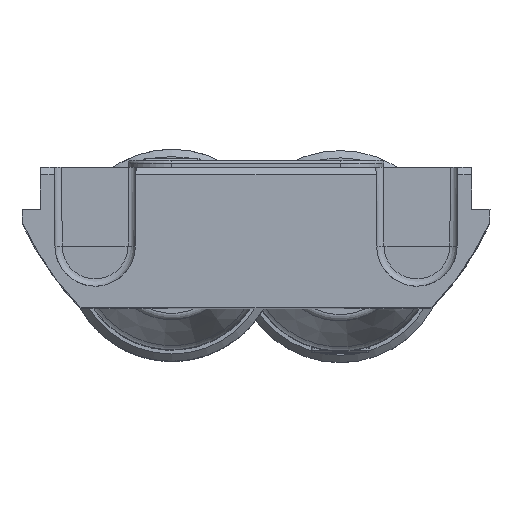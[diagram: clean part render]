
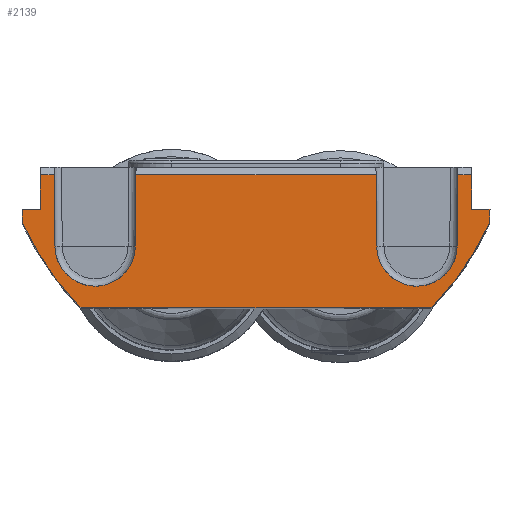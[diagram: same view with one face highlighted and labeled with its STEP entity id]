
A CAD part, top view. The second image highlights one B-rep face of the part: STEP entity #2139.
In plain terms, the highlighted planar face has unit normal (0, 0.009, 1).
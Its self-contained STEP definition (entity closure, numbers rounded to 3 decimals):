
#110=ELLIPSE('',#8088,0.5,0.5);
#112=ELLIPSE('',#8092,0.5,0.5);
#114=ELLIPSE('',#8096,0.5,0.5);
#117=ELLIPSE('',#8100,0.5,0.5);
#122=ELLIPSE('',#8119,2.75,2.75);
#123=ELLIPSE('',#8122,2.75,2.75);
#126=ELLIPSE('',#8136,20.001,20.);
#129=ELLIPSE('',#8140,20.001,20.);
#396=LINE('',#17270,#719);
#400=LINE('',#17279,#723);
#404=LINE('',#17288,#727);
#440=LINE('',#17905,#763);
#442=LINE('',#17909,#765);
#447=LINE('',#17919,#770);
#451=LINE('',#17927,#774);
#457=LINE('',#17938,#780);
#460=LINE('',#17947,#783);
#462=LINE('',#17957,#785);
#465=LINE('',#17974,#788);
#477=LINE('',#18008,#800);
#478=LINE('',#18010,#801);
#479=LINE('',#18011,#802);
#719=VECTOR('',#9833,1.);
#723=VECTOR('',#9839,1.);
#727=VECTOR('',#9845,1.);
#763=VECTOR('',#9981,1.);
#765=VECTOR('',#9985,1.);
#770=VECTOR('',#9992,1.);
#774=VECTOR('',#9998,1.);
#780=VECTOR('',#10008,1.);
#783=VECTOR('',#10013,1.);
#785=VECTOR('',#10021,1.);
#788=VECTOR('',#10032,1.);
#800=VECTOR('',#10078,1.);
#801=VECTOR('',#10081,1.);
#802=VECTOR('',#10082,1.);
#1172=FACE_OUTER_BOUND('',#3035,.T.);
#1571=PLANE('',#8143);
#2139=ADVANCED_FACE('',(#1172),#1571,.T.);
#3035=EDGE_LOOP('',(#4861,#4862,#4863,#4864,#4865,#4866,#4867,#4868,#4869,
#4870,#4871,#4872,#4873,#4874,#4875,#4876,#4877,#4878,#4879,#4880,#4881,
#4882));
#4861=ORIENTED_EDGE('',*,*,#6788,.T.);
#4862=ORIENTED_EDGE('',*,*,#6671,.T.);
#4863=ORIENTED_EDGE('',*,*,#6765,.F.);
#4864=ORIENTED_EDGE('',*,*,#6815,.F.);
#4865=ORIENTED_EDGE('',*,*,#6763,.F.);
#4866=ORIENTED_EDGE('',*,*,#6730,.T.);
#4867=ORIENTED_EDGE('',*,*,#6810,.T.);
#4868=ORIENTED_EDGE('',*,*,#6720,.T.);
#4869=ORIENTED_EDGE('',*,*,#6814,.F.);
#4870=ORIENTED_EDGE('',*,*,#6714,.T.);
#4871=ORIENTED_EDGE('',*,*,#6813,.T.);
#4872=ORIENTED_EDGE('',*,*,#6724,.T.);
#4873=ORIENTED_EDGE('',*,*,#6770,.F.);
#4874=ORIENTED_EDGE('',*,*,#6816,.F.);
#4875=ORIENTED_EDGE('',*,*,#6774,.F.);
#4876=ORIENTED_EDGE('',*,*,#6663,.T.);
#4877=ORIENTED_EDGE('',*,*,#6780,.F.);
#4878=ORIENTED_EDGE('',*,*,#6786,.F.);
#4879=ORIENTED_EDGE('',*,*,#6784,.F.);
#4880=ORIENTED_EDGE('',*,*,#6667,.T.);
#4881=ORIENTED_EDGE('',*,*,#6794,.T.);
#4882=ORIENTED_EDGE('',*,*,#6791,.T.);
#5723=VERTEX_POINT('',#17265);
#5725=VERTEX_POINT('',#17269);
#5727=VERTEX_POINT('',#17274);
#5729=VERTEX_POINT('',#17278);
#5731=VERTEX_POINT('',#17283);
#5733=VERTEX_POINT('',#17287);
#5762=VERTEX_POINT('',#17634);
#5763=VERTEX_POINT('',#17636);
#5766=VERTEX_POINT('',#17646);
#5767=VERTEX_POINT('',#17648);
#5770=VERTEX_POINT('',#17658);
#5771=VERTEX_POINT('',#17659);
#5776=VERTEX_POINT('',#17670);
#5777=VERTEX_POINT('',#17672);
#5803=VERTEX_POINT('',#17906);
#5804=VERTEX_POINT('',#17910);
#5808=VERTEX_POINT('',#17920);
#5811=VERTEX_POINT('',#17928);
#5814=VERTEX_POINT('',#17939);
#5815=VERTEX_POINT('',#17948);
#5816=VERTEX_POINT('',#17958);
#5817=VERTEX_POINT('',#17968);
#6663=EDGE_CURVE('',#5723,#5725,#396,.T.);
#6667=EDGE_CURVE('',#5727,#5729,#400,.T.);
#6671=EDGE_CURVE('',#5731,#5733,#404,.T.);
#6714=EDGE_CURVE('',#5762,#5763,#110,.T.);
#6720=EDGE_CURVE('',#5766,#5767,#112,.T.);
#6724=EDGE_CURVE('',#5770,#5771,#114,.T.);
#6730=EDGE_CURVE('',#5777,#5776,#117,.T.);
#6763=EDGE_CURVE('',#5777,#5803,#440,.T.);
#6765=EDGE_CURVE('',#5804,#5733,#442,.T.);
#6770=EDGE_CURVE('',#5808,#5771,#447,.T.);
#6774=EDGE_CURVE('',#5723,#5811,#451,.T.);
#6780=EDGE_CURVE('',#5814,#5725,#457,.T.);
#6784=EDGE_CURVE('',#5727,#5815,#460,.T.);
#6786=EDGE_CURVE('',#5815,#5814,#122,.T.);
#6788=EDGE_CURVE('',#5816,#5731,#462,.T.);
#6791=EDGE_CURVE('',#5817,#5816,#123,.T.);
#6794=EDGE_CURVE('',#5729,#5817,#465,.T.);
#6810=EDGE_CURVE('',#5776,#5766,#126,.T.);
#6813=EDGE_CURVE('',#5763,#5770,#129,.T.);
#6814=EDGE_CURVE('',#5762,#5767,#477,.T.);
#6815=EDGE_CURVE('',#5803,#5804,#478,.T.);
#6816=EDGE_CURVE('',#5811,#5808,#479,.T.);
#8088=AXIS2_PLACEMENT_3D('',#17637,#9904,#9905);
#8092=AXIS2_PLACEMENT_3D('',#17649,#9916,#9917);
#8096=AXIS2_PLACEMENT_3D('',#17657,#9926,#9927);
#8100=AXIS2_PLACEMENT_3D('',#17671,#9937,#9938);
#8119=AXIS2_PLACEMENT_3D('',#17954,#10016,#10017);
#8122=AXIS2_PLACEMENT_3D('',#17969,#10024,#10025);
#8136=AXIS2_PLACEMENT_3D('',#18002,#10066,#10067);
#8140=AXIS2_PLACEMENT_3D('',#18006,#10074,#10075);
#8143=AXIS2_PLACEMENT_3D('',#18012,#10083,#10084);
#9833=DIRECTION('',(-1.,0.,0.));
#9839=DIRECTION('',(-1.,0.,0.));
#9845=DIRECTION('',(-1.,0.,0.));
#9904=DIRECTION('',(0.,0.009,1.));
#9905=DIRECTION('',(0.,-1.,0.009));
#9916=DIRECTION('',(0.,0.009,1.));
#9917=DIRECTION('',(0.,-1.,0.009));
#9926=DIRECTION('',(0.,0.009,1.));
#9927=DIRECTION('',(0.,-1.,0.009));
#9937=DIRECTION('',(0.,0.009,1.));
#9938=DIRECTION('',(0.,-1.,0.009));
#9981=DIRECTION('',(-0.009,1.,-0.009));
#9985=DIRECTION('',(0.009,1.,-0.009));
#9992=DIRECTION('',(-0.009,-1.,0.009));
#9998=DIRECTION('',(0.009,-1.,0.009));
#10008=DIRECTION('',(0.009,1.,-0.009));
#10013=DIRECTION('',(0.009,-1.,0.009));
#10016=DIRECTION('',(0.,0.009,1.));
#10017=DIRECTION('',(0.,-1.,0.009));
#10021=DIRECTION('',(-0.009,1.,-0.009));
#10024=DIRECTION('',(0.,-0.009,-1.));
#10025=DIRECTION('',(0.,-1.,0.009));
#10032=DIRECTION('',(-0.009,-1.,0.009));
#10066=DIRECTION('',(0.,0.009,1.));
#10067=DIRECTION('',(0.,-1.,0.009));
#10074=DIRECTION('',(0.,0.009,1.));
#10075=DIRECTION('',(0.,-1.,0.009));
#10078=DIRECTION('',(-1.,0.,0.));
#10081=DIRECTION('',(1.,0.,0.));
#10082=DIRECTION('',(1.,0.,0.));
#10083=DIRECTION('',(0.,0.009,1.));
#10084=DIRECTION('',(0.,1.,-0.009));
#17265=CARTESIAN_POINT('',(14.729,9.125,-3.704));
#17269=CARTESIAN_POINT('',(13.793,9.125,-3.704));
#17270=CARTESIAN_POINT('',(-11.95,9.125,-3.704));
#17274=CARTESIAN_POINT('',(8.207,9.125,-3.704));
#17278=CARTESIAN_POINT('',(-8.207,9.125,-3.704));
#17279=CARTESIAN_POINT('',(-11.95,9.125,-3.704));
#17283=CARTESIAN_POINT('',(-13.793,9.125,-3.704));
#17287=CARTESIAN_POINT('',(-14.729,9.125,-3.704));
#17288=CARTESIAN_POINT('',(-11.95,9.125,-3.704));
#17634=CARTESIAN_POINT('',(11.764,0.025,-3.625));
#17636=CARTESIAN_POINT('',(12.124,0.178,-3.626));
#17637=CARTESIAN_POINT('',(11.764,0.525,-3.629));
#17646=CARTESIAN_POINT('',(-12.124,0.178,-3.626));
#17648=CARTESIAN_POINT('',(-11.764,0.025,-3.625));
#17649=CARTESIAN_POINT('',(-11.764,0.525,-3.629));
#17657=CARTESIAN_POINT('',(15.494,6.011,-3.677));
#17658=CARTESIAN_POINT('',(15.949,5.805,-3.675));
#17659=CARTESIAN_POINT('',(15.994,6.007,-3.677));
#17670=CARTESIAN_POINT('',(-15.949,5.805,-3.675));
#17671=CARTESIAN_POINT('',(-15.494,6.011,-3.677));
#17672=CARTESIAN_POINT('',(-15.994,6.007,-3.677));
#17905=CARTESIAN_POINT('',(-15.941,-0.01,-3.625));
#17906=CARTESIAN_POINT('',(-16.,6.75,-3.684));
#17909=CARTESIAN_POINT('',(-14.808,0.05,-3.625));
#17910=CARTESIAN_POINT('',(-14.75,6.75,-3.684));
#17919=CARTESIAN_POINT('',(15.939,-0.218,-3.623));
#17920=CARTESIAN_POINT('',(16.,6.75,-3.684));
#17927=CARTESIAN_POINT('',(14.807,0.258,-3.627));
#17928=CARTESIAN_POINT('',(14.75,6.75,-3.684));
#17938=CARTESIAN_POINT('',(13.75,4.279,-3.662));
#17939=CARTESIAN_POINT('',(13.75,4.25,-3.662));
#17947=CARTESIAN_POINT('',(8.25,4.279,-3.662));
#17948=CARTESIAN_POINT('',(8.25,4.25,-3.662));
#17954=CARTESIAN_POINT('',(11.,4.25,-3.662));
#17957=CARTESIAN_POINT('',(-13.713,0.01,-3.625));
#17958=CARTESIAN_POINT('',(-13.75,4.25,-3.662));
#17968=CARTESIAN_POINT('',(-8.25,4.25,-3.662));
#17969=CARTESIAN_POINT('',(-11.,4.25,-3.662));
#17974=CARTESIAN_POINT('',(-8.25,4.279,-3.662));
#18002=CARTESIAN_POINT('',(2.263,14.071,-3.748));
#18006=CARTESIAN_POINT('',(-2.263,14.071,-3.748));
#18008=CARTESIAN_POINT('',(-11.95,0.025,-3.625));
#18010=CARTESIAN_POINT('',(-11.95,6.75,-3.684));
#18011=CARTESIAN_POINT('',(-11.95,6.75,-3.684));
#18012=CARTESIAN_POINT('',(-11.95,0.025,-3.625));
